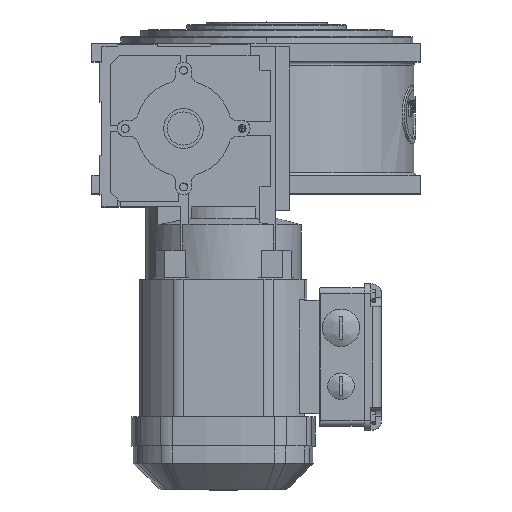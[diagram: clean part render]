
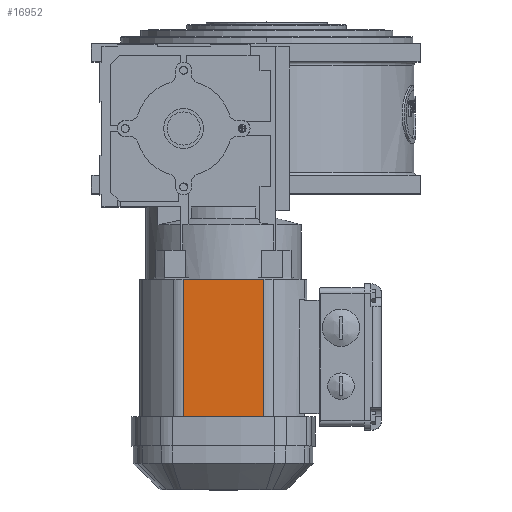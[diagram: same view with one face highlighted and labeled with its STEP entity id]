
A CAD part, top view. The second image highlights one B-rep face of the part: STEP entity #16952.
In plain terms, the highlighted planar face has unit normal (0, 0, 1).
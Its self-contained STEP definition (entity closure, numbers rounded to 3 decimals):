
#5574 = CARTESIAN_POINT ( 'NONE',  ( -2.101, -165., 268.9 ) ) ;
#8467 = CARTESIAN_POINT ( 'NONE',  ( -2.101, -61.5, 268.9 ) ) ;
#10109 = CARTESIAN_POINT ( 'NONE',  ( -62.899, -165., 268.9 ) ) ;
#10175 = ORIENTED_EDGE ( 'NONE', *, *, #28946, .F. ) ;
#13344 = VERTEX_POINT ( 'NONE', #10109 ) ;
#13611 = CARTESIAN_POINT ( 'NONE',  ( 26.968, -165., 268.9 ) ) ;
#14499 = LINE ( 'NONE', #8467, #31713 ) ;
#16952 = ADVANCED_FACE ( 'NONE', ( #63485 ), #36659, .F. ) ;
#25904 = LINE ( 'NONE', #31945, #29933 ) ;
#26338 = EDGE_CURVE ( 'NONE', #39130, #42240, #63591, .T. ) ;
#28946 = EDGE_CURVE ( 'NONE', #42240, #13344, #51167, .T. ) ;
#29933 = VECTOR ( 'NONE', #70099, 1000. ) ;
#30126 = VERTEX_POINT ( 'NONE', #37718 ) ;
#31713 = VECTOR ( 'NONE', #40780, 1000. ) ;
#31945 = CARTESIAN_POINT ( 'NONE',  ( -62.899, -165., 268.9 ) ) ;
#33062 = VECTOR ( 'NONE', #39896, 1000. ) ;
#34875 = ORIENTED_EDGE ( 'NONE', *, *, #37315, .F. ) ;
#35676 = EDGE_CURVE ( 'NONE', #13344, #30126, #25904, .T. ) ;
#35961 = DIRECTION ( 'NONE',  ( 0., 1., 0. ) ) ;
#36393 = ORIENTED_EDGE ( 'NONE', *, *, #35676, .F. ) ;
#36659 = PLANE ( 'NONE',  #51049 ) ;
#37315 = EDGE_CURVE ( 'NONE', #30126, #39130, #14499, .T. ) ;
#37718 = CARTESIAN_POINT ( 'NONE',  ( -62.899, -61.5, 268.9 ) ) ;
#39130 = VERTEX_POINT ( 'NONE', #43338 ) ;
#39896 = DIRECTION ( 'NONE',  ( -1., 0., 0. ) ) ;
#40240 = EDGE_LOOP ( 'NONE', ( #36393, #10175, #62156, #34875 ) ) ;
#40780 = DIRECTION ( 'NONE',  ( 1., 0., 0. ) ) ;
#41595 = CARTESIAN_POINT ( 'NONE',  ( -2.101, -165., 268.9 ) ) ;
#41706 = CARTESIAN_POINT ( 'NONE',  ( -2.101, -165., 268.9 ) ) ;
#42240 = VERTEX_POINT ( 'NONE', #5574 ) ;
#43338 = CARTESIAN_POINT ( 'NONE',  ( -2.101, -61.5, 268.9 ) ) ;
#51049 = AXIS2_PLACEMENT_3D ( 'NONE', #41595, #51824, #35961 ) ;
#51167 = LINE ( 'NONE', #13611, #33062 ) ;
#51824 = DIRECTION ( 'NONE',  ( 0., 0., -1. ) ) ;
#58664 = DIRECTION ( 'NONE',  ( 0., -1., 0. ) ) ;
#62156 = ORIENTED_EDGE ( 'NONE', *, *, #26338, .F. ) ;
#63485 = FACE_OUTER_BOUND ( 'NONE', #40240, .T. ) ;
#63591 = LINE ( 'NONE', #41706, #65737 ) ;
#65737 = VECTOR ( 'NONE', #58664, 1000. ) ;
#70099 = DIRECTION ( 'NONE',  ( 0., 1., 0. ) ) ;
